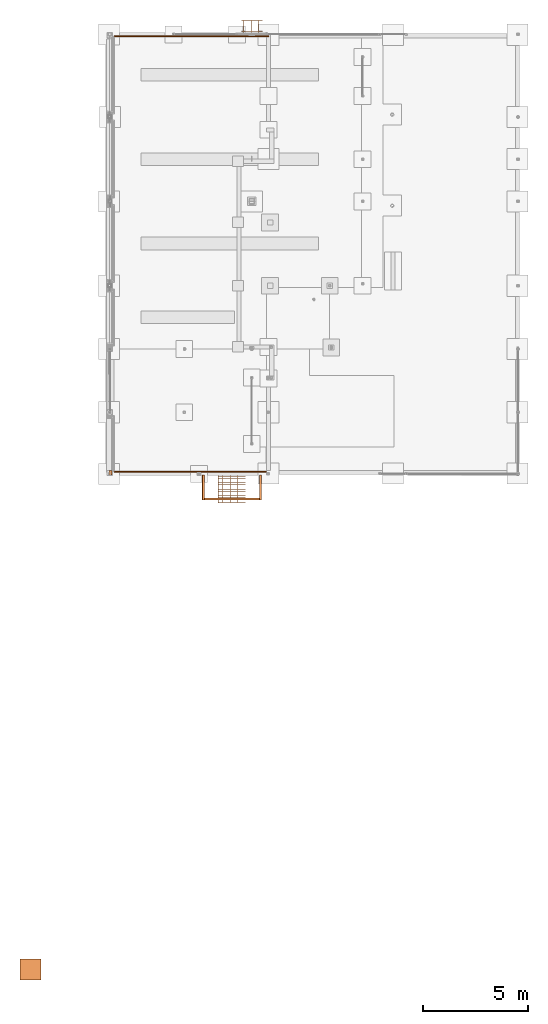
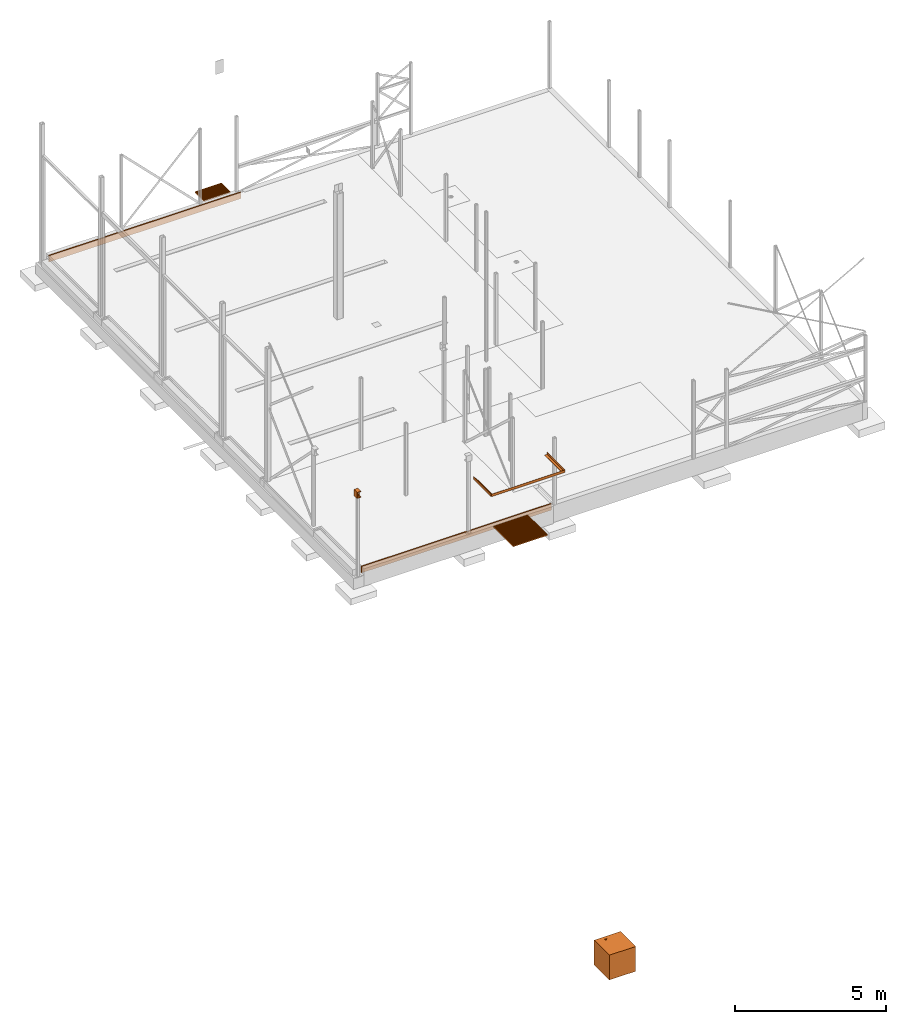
# One storey, part 14 of 18: 9 proxies.
"""IFC2X3 building model written with IfcOpenShell, lengths in millimetres."""

from ifc_helpers import new_model, entity, si_unit, converted_unit, derived_unit, direction, frame, frame_2d, origin, origin_2d_with_axis, place, context, subcontext, project, spatial, polyline, rectangle, circle, outline, extrude, source, transform, mapped, material, material_list, type_object, type_shapes, element, save


model = new_model("IFC2X3")

# Units and contexts
model_context = context("Model", 3, precision=0.01, world=origin(), true_north=direction((6.12303176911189e-17, 1.0)))
body_context = subcontext(model_context, "Body", "Model", "MODEL_VIEW")
ifc_project = project(units=[si_unit("LENGTHUNIT", "METRE", prefix="MILLI"), si_unit("AREAUNIT", "SQUARE_METRE"), si_unit("VOLUMEUNIT", "CUBIC_METRE"), converted_unit("PLANEANGLEUNIT", "DEGREE", entity("IfcRatioMeasure", 0.0174532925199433), si_unit("PLANEANGLEUNIT", "RADIAN"), dimensions=[0, 0, 0, 0, 0, 0, 0]), si_unit("MASSUNIT", "GRAM", prefix="KILO"), derived_unit("MASSDENSITYUNIT", [(si_unit("MASSUNIT", "GRAM", prefix="KILO"), 1), (si_unit("LENGTHUNIT", "METRE"), -3)]), si_unit("TIMEUNIT", "SECOND"), si_unit("FREQUENCYUNIT", "HERTZ"), si_unit("THERMODYNAMICTEMPERATUREUNIT", "DEGREE_CELSIUS"), derived_unit("THERMALTRANSMITTANCEUNIT", [(si_unit("MASSUNIT", "GRAM", prefix="KILO"), 1), (si_unit("THERMODYNAMICTEMPERATUREUNIT", "KELVIN"), -1), (si_unit("TIMEUNIT", "SECOND"), -3)]), derived_unit("VOLUMETRICFLOWRATEUNIT", [(si_unit("LENGTHUNIT", "METRE"), 3), (si_unit("TIMEUNIT", "SECOND"), -1)]), si_unit("ELECTRICCURRENTUNIT", "AMPERE"), si_unit("ELECTRICVOLTAGEUNIT", "VOLT"), si_unit("POWERUNIT", "WATT"), si_unit("FORCEUNIT", "NEWTON", prefix="KILO"), si_unit("ILLUMINANCEUNIT", "LUX"), si_unit("LUMINOUSFLUXUNIT", "LUMEN"), si_unit("LUMINOUSINTENSITYUNIT", "CANDELA"), derived_unit("USERDEFINED", [(si_unit("MASSUNIT", "GRAM", prefix="KILO"), -1), (si_unit("LENGTHUNIT", "METRE"), -2), (si_unit("TIMEUNIT", "SECOND"), 3), (si_unit("LUMINOUSFLUXUNIT", "LUMEN"), 1)]), derived_unit("LINEARVELOCITYUNIT", [(si_unit("LENGTHUNIT", "METRE"), 1), (si_unit("TIMEUNIT", "SECOND"), -1)]), si_unit("PRESSUREUNIT", "PASCAL"), derived_unit("USERDEFINED", [(si_unit("LENGTHUNIT", "METRE"), -2), (si_unit("MASSUNIT", "GRAM", prefix="KILO"), 1), (si_unit("TIMEUNIT", "SECOND"), -2)])], contexts=[model_context])

# Site, building, storey
site_placement = place(None, frame((0.0, 0.0, 101000.0)))
site = spatial("IfcSite", under=ifc_project, at=site_placement, Name="Default", CompositionType="ELEMENT")
building_placement = place(site_placement, origin())
building = spatial("IfcBuilding", under=site, at=building_placement, CompositionType="ELEMENT")
storey_placement = place(building_placement, origin())
storey = spatial("IfcBuildingStorey", under=building, at=storey_placement, Name="01", CompositionType="ELEMENT", Elevation=8.9295595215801e-10)

# Proxies
ifc_material_1 = material(Name="NULPUNKT - RIB")
ifc_material_2 = material(Name="Default")
ifc_material_list = material_list([ifc_material_1, ifc_material_2])
shared_shape_1 = source(origin(), body_context, "Body", "SweptSolid", [
    extrude(rectangle(XDim=1000.0, YDim=1000.0, at=frame_2d((0.0, -4.2632564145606e-13), x_axis=(1.0, 0.0))), frame((0.0, 0.0, -500.0)), (0.0, 0.0, 1.0), 1000.0),
    extrude(outline(polyline([(-23.1072874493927, -22.0657262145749), (-16.9534412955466, -22.0657262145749), (-16.9534412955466, -0.527264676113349), (-9.52555668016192, -0.527264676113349), (-5.95584514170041, -0.743610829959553), (-3.0291624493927, -1.91548582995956), (0.22203947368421, -5.1065915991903), (4.84944331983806, -11.861399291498), (11.2556933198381, -22.0657262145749), (18.4071356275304, -22.0657262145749), (10.1980010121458, -8.72438006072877), (5.21002024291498, -2.39024544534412), (1.71242408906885, 0.241966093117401), (12.0189144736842, 4.82129301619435), (15.3542510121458, 13.6914853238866), (13.3410298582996, 21.1373987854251), (7.95641447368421, 25.8369180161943), (-1.89334514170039, 27.1650430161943), (-23.1072874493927, 27.1650430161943), (-23.1072874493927, -22.0657262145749)]), holes=[polyline([(-16.9534412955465, 5.62658147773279), (-16.9534412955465, 21.0111968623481), (-1.62892206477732, 21.0111968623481), (6.59824139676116, 18.8837930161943), (9.20040485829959, 13.4631199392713), (7.8362221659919, 9.28643724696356), (3.84583755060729, 6.497975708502), (-3.1794028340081, 5.62658147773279), (-16.9534412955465, 5.62658147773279)])]), frame((-172.487598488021, 337.837585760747, 500.0)), (0.0, 0.0, 1.0), 10.0),
    extrude(rectangle(XDim=6.15384615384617, YDim=49.2307692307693, at=frame_2d((-1.68753899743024e-14, 0.0), x_axis=(1.0, 0.0))), frame((-142.51796286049, 340.387244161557, 500.0)), (0.0, 0.0, 1.0), 10.0),
    extrude(outline(polyline([(-25.8791208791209, -23.8620364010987), (-7.23729395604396, -23.8620364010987), (0.653331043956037, -23.014680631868), (6.00789835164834, -20.514680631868), (9.59563873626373, -15.8031421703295), (11.043956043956, -9.18655563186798), (8.92256181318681, -1.53030563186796), (2.85885989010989, 3.06104052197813), (7.85285027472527, 7.41801167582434), (9.50549450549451, 13.1692135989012), (7.54035027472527, 19.4672905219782), (2.10765796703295, 23.9204155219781), (-7.09306318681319, 25.3687328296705), (-25.8791208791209, 25.3687328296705), (-25.8791208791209, -23.8620364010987)]), holes=[polyline([(-19.7252747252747, -17.7081902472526), (-19.7252747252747, -0.785113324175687), (-7.70604395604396, -0.785113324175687), (-0.103880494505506, -1.60843063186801), (3.71222527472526, -4.46299793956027), (4.89010989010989, -9.24665178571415), (3.88650412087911, -13.3932864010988), (1.32640796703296, -16.1276614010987), (-2.53777472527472, -17.467805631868), (-7.10508241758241, -17.7081902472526), (-19.7252747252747, -17.7081902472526)]), polyline([(-19.7252747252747, 5.36873282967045), (-19.7252747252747, 19.2148866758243), (-9.34065934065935, 19.2148866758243), (-1.43200549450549, 18.5718578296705), (2.11366758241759, 16.1980597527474), (3.35164835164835, 12.1836366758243), (2.02352335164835, 8.17522321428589), (-1.92479395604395, 5.89757898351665), (-8.48729395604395, 5.36873282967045), (-19.7252747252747, 5.36873282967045)])]), frame((-101.254226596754, 339.633895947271, 500.0)), (0.0, 0.0, 1.0), 10.0),
])
proxy_1_placement = place(storey_placement, origin())
element("IfcBuildingElementProxy", 1, at=proxy_1_placement, inside=storey, material=ifc_material_list, Name="Procon_Prosjekt nullpunkt RIB:RIB", ObjectType="RIB", context=body_context, shape_type="MappedRepresentation", body=[
    mapped(shared_shape_1, transform((0.0, 0.0, 0.0), scale=1.0)),
])
ifc_material_3 = material(Name="Stål - S355")
building_element_proxy_type_1 = type_object("IfcBuildingElementProxyType", Name="L 100x100x8", PredefinedType="NOTDEFINED", material=ifc_material_3)
shared_shape_2 = source(origin(), body_context, "Body", "SweptSolid", [
    extrude(outline(polyline([(-36.0, -36.0), (64.0, -36.0), (64.0, -28.0), (-28.0, -28.0), (-28.0, 64.0), (-36.0, 64.0), (-36.0, -36.0)])), frame((0.0, 24.0, -24.0), z_axis=(1.0, 0.0, 0.0), x_axis=(0.0, 0.0, -1.0)), (0.0, 0.0, 1.0), 1180.00000000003),
])
type_shapes(building_element_proxy_type_1, [shared_shape_2])
for number, where, z_axis, x_axis, name in (
    (2, (10942.3188765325, 22267.9507529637, 2161.51614697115), (1.0, 0.0, 0.0), (0.0, 1.0, 0.0), "Bjelke L (Linebased):L 100x100x8"),
    (3, (8150.31887653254, 23447.9507529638, 2156.22785734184), (-1.0, 0.0, 0.0), (0.0, -1.0, 0.0), "Bjelke L (Linebased):L 100x100x8"),
):
    element("IfcBuildingElementProxy", number, at=place(storey_placement, frame(where, z_axis=z_axis, x_axis=x_axis)), inside=storey, type_object=building_element_proxy_type_1, material=ifc_material_3, Name=name, ObjectType="L 100x100x8", context=body_context, shape_type="MappedRepresentation", body=[
        mapped(shared_shape_2, transform((0.0, 0.0, 0.0), scale=1.0)),
    ])
building_element_proxy_type_2 = type_object("IfcBuildingElementProxyType", Name="L 100x100x8", PredefinedType="NOTDEFINED", material=ifc_material_3)
shared_shape_3 = source(origin(), body_context, "Body", "SweptSolid", [
    extrude(outline(polyline([(-36.0, -36.0), (64.0, -36.0), (64.0, -28.0), (-28.0, -28.0), (-28.0, 64.0), (-36.0, 64.0), (-36.0, -36.0)])), frame((0.0, 24.0, -24.0), z_axis=(1.0, 0.0, 0.0), x_axis=(0.0, 0.0, -1.0)), (0.0, 0.0, 1.0), 2800.0),
])
type_shapes(building_element_proxy_type_2, [shared_shape_3])
proxy_2_placement = place(storey_placement, frame((8146.31887653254, 22271.9507529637, 2155.25786361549), z_axis=(0.0, -1.0, 0.0), x_axis=(1.0, 0.0, 0.0)))
element("IfcBuildingElementProxy", 4, at=proxy_2_placement, inside=storey, type_object=building_element_proxy_type_2, material=ifc_material_3, Name="Bjelke L (Linebased):L 100x100x8", ObjectType="L 100x100x8", context=body_context, shape_type="MappedRepresentation", body=[
    mapped(shared_shape_3, transform((0.0, 0.0, 0.0), scale=1.0)),
])
ifc_material_4 = material(Name="S355")
building_element_proxy_type_3 = type_object("IfcBuildingElementProxyType", Name="200x150", PredefinedType="NOTDEFINED", material=ifc_material_4)
shared_shape_4 = source(origin(), body_context, "Body", "SweptSolid", [
    extrude(rectangle(XDim=150.0, YDim=200.000000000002, at=frame_2d((21.666666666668, 4.33431068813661e-12), x_axis=(1.0, 0.0))), frame((3764.59783031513, 23547.9507529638, 3130.0)), (0.0, 0.0, 1.0), 19.9999999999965),
    extrude(circle(Radius=10.0000000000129, at=origin_2d_with_axis()), frame((3811.2644969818, 23597.9507529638, 2900.0), z_axis=(0.0, 0.0, 1.0), x_axis=(-1.0, 0.0, 0.0)), (0.0, 0.0, 1.0), 250.000000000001),
    extrude(circle(Radius=10.0000000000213, at=origin_2d_with_axis()), frame((3811.26449698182, 23497.9507529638, 2900.0), z_axis=(0.0, 0.0, 1.0), x_axis=(-1.0, 0.0, 0.0)), (0.0, 0.0, 1.0), 250.000000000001),
    extrude(rectangle(XDim=199.999999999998, YDim=9.99999999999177, at=frame_2d((0.0, -2.70450328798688e-13), x_axis=(1.0, 0.0))), frame((3716.2644969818, 23547.9507529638, 2920.0), z_axis=(0.0, 0.0, 1.0), x_axis=(0.0, -1.0, 0.0)), (0.0, 0.0, 1.0), 209.99999999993),
    extrude(rectangle(XDim=150.0, YDim=200.000000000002, at=frame_2d((2.70006239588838e-13, 0.0), x_axis=(1.0, 0.0))), frame((3786.2644969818, 23547.9507529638, 2900.0)), (0.0, 0.0, 1.0), 20.0000000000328),
])
type_shapes(building_element_proxy_type_3, [shared_shape_4])
proxy_3_placement = place(storey_placement, origin())
element("IfcBuildingElementProxy", 5, at=proxy_3_placement, inside=storey, type_object=building_element_proxy_type_3, material=ifc_material_4, Name="Innstøpningsplate mk.3:200x150", ObjectType="200x150", context=body_context, shape_type="MappedRepresentation", body=[
    mapped(shared_shape_4, transform((0.0, 0.0, 0.0), scale=1.0)),
])
ifc_material_5 = material(Name="Metal - Steel - ASTM A36")
building_element_proxy_type_4 = type_object("IfcBuildingElementProxyType", Name="1300x1300", PredefinedType="NOTDEFINED", material=ifc_material_5)
shared_shape_5 = source(origin(), body_context, "Body", "SweptSolid", [
    extrude(rectangle(XDim=1290.475, YDim=4.7625, at=origin_2d_with_axis()), frame((616.779761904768, 0.0, 0.0), z_axis=(0.0, 0.0, 1.0), x_axis=(0.0, 1.0, 0.0)), (0.0, 0.0, 1.0), 50.0),
    extrude(rectangle(XDim=1290.475, YDim=4.7625, at=origin_2d_with_axis()), frame((585.94077380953, 0.0, 0.0), z_axis=(0.0, 0.0, 1.0), x_axis=(0.0, 1.0, 0.0)), (0.0, 0.0, 1.0), 50.0),
    extrude(rectangle(XDim=1290.475, YDim=4.7625, at=origin_2d_with_axis()), frame((555.101785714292, 0.0, 0.0), z_axis=(0.0, 0.0, 1.0), x_axis=(0.0, 1.0, 0.0)), (0.0, 0.0, 1.0), 50.0),
    extrude(rectangle(XDim=1290.475, YDim=4.7625, at=origin_2d_with_axis()), frame((524.262797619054, 0.0, 0.0), z_axis=(0.0, 0.0, 1.0), x_axis=(0.0, 1.0, 0.0)), (0.0, 0.0, 1.0), 50.0),
    extrude(rectangle(XDim=1290.475, YDim=4.7625, at=origin_2d_with_axis()), frame((493.423809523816, 0.0, 0.0), z_axis=(0.0, 0.0, 1.0), x_axis=(0.0, 1.0, 0.0)), (0.0, 0.0, 1.0), 50.0),
    extrude(rectangle(XDim=1290.475, YDim=4.7625, at=origin_2d_with_axis()), frame((462.584821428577, 0.0, 0.0), z_axis=(0.0, 0.0, 1.0), x_axis=(0.0, 1.0, 0.0)), (0.0, 0.0, 1.0), 50.0),
    extrude(rectangle(XDim=1290.475, YDim=4.7625, at=origin_2d_with_axis()), frame((431.745833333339, 0.0, 0.0), z_axis=(0.0, 0.0, 1.0), x_axis=(0.0, 1.0, 0.0)), (0.0, 0.0, 1.0), 50.0),
    extrude(rectangle(XDim=1290.475, YDim=4.7625, at=origin_2d_with_axis()), frame((400.906845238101, 0.0, 0.0), z_axis=(0.0, 0.0, 1.0), x_axis=(0.0, 1.0, 0.0)), (0.0, 0.0, 1.0), 50.0),
    extrude(rectangle(XDim=1290.475, YDim=4.7625, at=origin_2d_with_axis()), frame((370.067857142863, 0.0, 0.0), z_axis=(0.0, 0.0, 1.0), x_axis=(0.0, 1.0, 0.0)), (0.0, 0.0, 1.0), 50.0),
    extrude(rectangle(XDim=1290.475, YDim=4.7625, at=origin_2d_with_axis()), frame((339.228869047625, 0.0, 0.0), z_axis=(0.0, 0.0, 1.0), x_axis=(0.0, 1.0, 0.0)), (0.0, 0.0, 1.0), 50.0),
    extrude(rectangle(XDim=1290.475, YDim=4.7625, at=origin_2d_with_axis()), frame((308.389880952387, 0.0, 0.0), z_axis=(0.0, 0.0, 1.0), x_axis=(0.0, 1.0, 0.0)), (0.0, 0.0, 1.0), 50.0),
    extrude(rectangle(XDim=1290.475, YDim=4.7625, at=origin_2d_with_axis()), frame((277.550892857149, 0.0, 0.0), z_axis=(0.0, 0.0, 1.0), x_axis=(0.0, 1.0, 0.0)), (0.0, 0.0, 1.0), 50.0),
    extrude(rectangle(XDim=1290.475, YDim=4.7625, at=origin_2d_with_axis()), frame((246.711904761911, 0.0, 0.0), z_axis=(0.0, 0.0, 1.0), x_axis=(0.0, 1.0, 0.0)), (0.0, 0.0, 1.0), 50.0),
    extrude(rectangle(XDim=1290.475, YDim=4.7625, at=origin_2d_with_axis()), frame((215.872916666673, 0.0, 0.0), z_axis=(0.0, 0.0, 1.0), x_axis=(0.0, 1.0, 0.0)), (0.0, 0.0, 1.0), 50.0),
    extrude(rectangle(XDim=1290.475, YDim=4.7625, at=origin_2d_with_axis()), frame((185.033928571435, 0.0, 0.0), z_axis=(0.0, 0.0, 1.0), x_axis=(0.0, 1.0, 0.0)), (0.0, 0.0, 1.0), 50.0),
    extrude(rectangle(XDim=1290.475, YDim=4.7625, at=origin_2d_with_axis()), frame((154.194940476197, 0.0, 0.0), z_axis=(0.0, 0.0, 1.0), x_axis=(0.0, 1.0, 0.0)), (0.0, 0.0, 1.0), 50.0),
    extrude(rectangle(XDim=1290.475, YDim=4.7625, at=origin_2d_with_axis()), frame((123.355952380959, 0.0, 0.0), z_axis=(0.0, 0.0, 1.0), x_axis=(0.0, 1.0, 0.0)), (0.0, 0.0, 1.0), 50.0),
    extrude(rectangle(XDim=1290.475, YDim=4.7625, at=origin_2d_with_axis()), frame((92.5169642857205, 0.0, 0.0), z_axis=(0.0, 0.0, 1.0), x_axis=(0.0, 1.0, 0.0)), (0.0, 0.0, 1.0), 50.0),
    extrude(rectangle(XDim=1290.475, YDim=4.7625, at=origin_2d_with_axis()), frame((61.6779761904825, 0.0, 0.0), z_axis=(0.0, 0.0, 1.0), x_axis=(0.0, 1.0, 0.0)), (0.0, 0.0, 1.0), 50.0),
    extrude(rectangle(XDim=1290.475, YDim=4.7625, at=origin_2d_with_axis()), frame((30.8389880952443, 0.0, 0.0), z_axis=(0.0, 0.0, 1.0), x_axis=(0.0, 1.0, 0.0)), (0.0, 0.0, 1.0), 50.0),
    extrude(rectangle(XDim=1290.475, YDim=4.7625, at=origin_2d_with_axis()), frame((0.0, 0.0, 0.0), z_axis=(0.0, 0.0, 1.0), x_axis=(0.0, 1.0, 0.0)), (0.0, 0.0, 1.0), 50.0),
    extrude(rectangle(XDim=1290.475, YDim=4.7625, at=origin_2d_with_axis()), frame((-30.8389880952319, 0.0, 0.0), z_axis=(0.0, 0.0, 1.0), x_axis=(0.0, 1.0, 0.0)), (0.0, 0.0, 1.0), 50.0),
    extrude(rectangle(XDim=1290.475, YDim=4.7625, at=origin_2d_with_axis()), frame((-61.6779761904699, 0.0, 0.0), z_axis=(0.0, 0.0, 1.0), x_axis=(0.0, 1.0, 0.0)), (0.0, 0.0, 1.0), 50.0),
    extrude(rectangle(XDim=1300.0, YDim=6.34999999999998, at=frame_2d((0.0, 3.37507799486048e-14), x_axis=(1.0, 0.0))), frame((0.0, -457.199999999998, 43.6499999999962), z_axis=(0.0, 0.0, 1.0), x_axis=(-1.0, 0.0, 0.0)), (0.0, 0.0, 1.0), 6.35),
    extrude(rectangle(XDim=1300.0, YDim=6.34999999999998, at=frame_2d((0.0, 3.37507799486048e-14), x_axis=(1.0, 0.0))), frame((0.0, -355.599999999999, 43.6499999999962), z_axis=(0.0, 0.0, 1.0), x_axis=(-1.0, 0.0, 0.0)), (0.0, 0.0, 1.0), 6.35),
    extrude(rectangle(XDim=1300.0, YDim=6.35000000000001, at=origin_2d_with_axis()), frame((0.0, -254.0, 43.6499999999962), z_axis=(0.0, 0.0, 1.0), x_axis=(-1.0, 0.0, 0.0)), (0.0, 0.0, 1.0), 6.35),
    extrude(rectangle(XDim=1300.0, YDim=6.34999999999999, at=frame_2d((0.0, -8.43769498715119e-15), x_axis=(1.0, 0.0))), frame((0.0, -152.399999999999, 43.6499999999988), z_axis=(0.0, 0.0, 1.0), x_axis=(-1.0, 0.0, 0.0)), (0.0, 0.0, 1.0), 6.35),
    extrude(rectangle(XDim=1300.0, YDim=6.34999999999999, at=origin_2d_with_axis()), frame((0.0, -50.7999999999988, 43.6499999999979), z_axis=(0.0, 0.0, 1.0), x_axis=(-1.0, 0.0, 0.0)), (0.0, 0.0, 1.0), 6.35),
    extrude(rectangle(XDim=1300.0, YDim=6.34999999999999, at=origin_2d_with_axis()), frame((0.0, 50.8000000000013, 43.6499999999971), z_axis=(0.0, 0.0, 1.0), x_axis=(-1.0, 0.0, 0.0)), (0.0, 0.0, 1.0), 6.35),
    extrude(rectangle(XDim=1300.0, YDim=6.34999999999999, at=frame_2d((0.0, 8.43769498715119e-15), x_axis=(1.0, 0.0))), frame((0.0, 152.400000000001, 43.6499999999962), z_axis=(0.0, 0.0, 1.0), x_axis=(-1.0, 0.0, 0.0)), (0.0, 0.0, 1.0), 6.35),
    extrude(rectangle(XDim=1290.475, YDim=4.7625, at=origin_2d_with_axis()), frame((-92.5169642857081, 0.0, 0.0), z_axis=(0.0, 0.0, 1.0), x_axis=(0.0, 1.0, 0.0)), (0.0, 0.0, 1.0), 50.0),
    extrude(rectangle(XDim=1290.475, YDim=4.7625, at=origin_2d_with_axis()), frame((-123.355952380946, 0.0, 0.0), z_axis=(0.0, 0.0, 1.0), x_axis=(0.0, 1.0, 0.0)), (0.0, 0.0, 1.0), 50.0),
    extrude(rectangle(XDim=1290.475, YDim=4.7625, at=origin_2d_with_axis()), frame((-154.194940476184, 0.0, 0.0), z_axis=(0.0, 0.0, 1.0), x_axis=(0.0, 1.0, 0.0)), (0.0, 0.0, 1.0), 50.0),
    extrude(rectangle(XDim=1290.475, YDim=4.7625, at=origin_2d_with_axis()), frame((-185.033928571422, 0.0, 0.0), z_axis=(0.0, 0.0, 1.0), x_axis=(0.0, 1.0, 0.0)), (0.0, 0.0, 1.0), 50.0),
    extrude(rectangle(XDim=1290.475, YDim=4.7625, at=origin_2d_with_axis()), frame((-215.87291666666, 0.0, 0.0), z_axis=(0.0, 0.0, 1.0), x_axis=(0.0, 1.0, 0.0)), (0.0, 0.0, 1.0), 50.0),
    extrude(rectangle(XDim=1290.475, YDim=4.7625, at=origin_2d_with_axis()), frame((-246.711904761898, 0.0, 0.0), z_axis=(0.0, 0.0, 1.0), x_axis=(0.0, 1.0, 0.0)), (0.0, 0.0, 1.0), 50.0),
    extrude(rectangle(XDim=1290.475, YDim=4.7625, at=origin_2d_with_axis()), frame((-277.550892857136, 0.0, 0.0), z_axis=(0.0, 0.0, 1.0), x_axis=(0.0, 1.0, 0.0)), (0.0, 0.0, 1.0), 50.0),
    extrude(rectangle(XDim=1290.475, YDim=4.7625, at=origin_2d_with_axis()), frame((-308.389880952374, 0.0, 0.0), z_axis=(0.0, 0.0, 1.0), x_axis=(0.0, 1.0, 0.0)), (0.0, 0.0, 1.0), 50.0),
    extrude(rectangle(XDim=1290.475, YDim=4.7625, at=origin_2d_with_axis()), frame((-339.228869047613, 0.0, 0.0), z_axis=(0.0, 0.0, 1.0), x_axis=(0.0, 1.0, 0.0)), (0.0, 0.0, 1.0), 50.0),
    extrude(rectangle(XDim=1290.475, YDim=4.7625, at=origin_2d_with_axis()), frame((-370.067857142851, 0.0, 0.0), z_axis=(0.0, 0.0, 1.0), x_axis=(0.0, 1.0, 0.0)), (0.0, 0.0, 1.0), 50.0),
    extrude(rectangle(XDim=1290.475, YDim=4.7625, at=origin_2d_with_axis()), frame((-400.906845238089, 0.0, 0.0), z_axis=(0.0, 0.0, 1.0), x_axis=(0.0, 1.0, 0.0)), (0.0, 0.0, 1.0), 50.0),
    extrude(rectangle(XDim=1290.475, YDim=4.7625, at=origin_2d_with_axis()), frame((-431.745833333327, 0.0, 0.0), z_axis=(0.0, 0.0, 1.0), x_axis=(0.0, 1.0, 0.0)), (0.0, 0.0, 1.0), 50.0),
    extrude(rectangle(XDim=1290.475, YDim=4.7625, at=origin_2d_with_axis()), frame((-462.584821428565, 0.0, 0.0), z_axis=(0.0, 0.0, 1.0), x_axis=(0.0, 1.0, 0.0)), (0.0, 0.0, 1.0), 50.0),
    extrude(rectangle(XDim=1290.475, YDim=4.7625, at=origin_2d_with_axis()), frame((-493.423809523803, 0.0, 0.0), z_axis=(0.0, 0.0, 1.0), x_axis=(0.0, 1.0, 0.0)), (0.0, 0.0, 1.0), 50.0),
    extrude(rectangle(XDim=1290.475, YDim=4.7625, at=origin_2d_with_axis()), frame((-524.262797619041, 0.0, 0.0), z_axis=(0.0, 0.0, 1.0), x_axis=(0.0, 1.0, 0.0)), (0.0, 0.0, 1.0), 50.0),
    extrude(rectangle(XDim=1290.475, YDim=4.7625, at=origin_2d_with_axis()), frame((-555.101785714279, 0.0, 0.0), z_axis=(0.0, 0.0, 1.0), x_axis=(0.0, 1.0, 0.0)), (0.0, 0.0, 1.0), 50.0),
    extrude(rectangle(XDim=1290.475, YDim=4.7625, at=origin_2d_with_axis()), frame((-585.940773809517, 0.0, 0.0), z_axis=(0.0, 0.0, 1.0), x_axis=(0.0, 1.0, 0.0)), (0.0, 0.0, 1.0), 50.0),
    extrude(rectangle(XDim=1290.475, YDim=4.7625, at=origin_2d_with_axis()), frame((-616.779761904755, 0.0, 0.0), z_axis=(0.0, 0.0, 1.0), x_axis=(0.0, 1.0, 0.0)), (0.0, 0.0, 1.0), 50.0),
    extrude(rectangle(XDim=1290.475, YDim=4.7625, at=origin_2d_with_axis()), frame((647.618750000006, 0.0, 0.0), z_axis=(0.0, 0.0, 1.0), x_axis=(0.0, 1.0, 0.0)), (0.0, 0.0, 1.0), 50.0),
    extrude(rectangle(XDim=1300.0, YDim=6.35000000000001, at=origin_2d_with_axis()), frame((0.0, 254.0, 43.6499999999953), z_axis=(0.0, 0.0, 1.0), x_axis=(-1.0, 0.0, 0.0)), (0.0, 0.0, 1.0), 6.35),
    extrude(rectangle(XDim=1300.0, YDim=6.34999999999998, at=frame_2d((0.0, 3.37507799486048e-14), x_axis=(1.0, 0.0))), frame((0.0, 355.600000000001, 43.6499999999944), z_axis=(0.0, 0.0, 1.0), x_axis=(-1.0, 0.0, 0.0)), (0.0, 0.0, 1.0), 6.35),
    extrude(rectangle(XDim=1300.0, YDim=6.34999999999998, at=frame_2d((0.0, -3.37507799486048e-14), x_axis=(1.0, 0.0))), frame((0.0, 457.200000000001, 43.6499999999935), z_axis=(0.0, 0.0, 1.0), x_axis=(-1.0, 0.0, 0.0)), (0.0, 0.0, 1.0), 6.35),
    extrude(rectangle(XDim=1300.0, YDim=6.34999999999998, at=frame_2d((0.0, 3.37507799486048e-14), x_axis=(1.0, 0.0))), frame((0.0, -558.799999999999, 43.6500000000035), z_axis=(0.0, 0.0, 1.0), x_axis=(-1.0, 0.0, 0.0)), (0.0, 0.0, 1.0), 6.35),
    extrude(rectangle(XDim=1300.0, YDim=4.7625, at=frame_2d((0.0, -6.75015598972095e-14), x_axis=(1.0, 0.0))), frame((0.0, -647.618750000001, 0.0), z_axis=(0.0, 0.0, 1.0), x_axis=(-1.0, 0.0, 0.0)), (0.0, 0.0, 1.0), 50.0),
    extrude(rectangle(XDim=1300.0, YDim=4.7625, at=frame_2d((0.0, 6.75015598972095e-14), x_axis=(1.0, 0.0))), frame((0.0, 647.618750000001, 0.0), z_axis=(0.0, 0.0, 1.0), x_axis=(-1.0, 0.0, 0.0)), (0.0, 0.0, 1.0), 50.0),
    extrude(rectangle(XDim=1290.475, YDim=4.7625, at=origin_2d_with_axis()), frame((-647.618749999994, 0.0, 0.0), z_axis=(0.0, 0.0, 1.0), x_axis=(0.0, 1.0, 0.0)), (0.0, 0.0, 1.0), 50.0),
    extrude(rectangle(XDim=1300.0, YDim=6.34999999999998, at=frame_2d((0.0, -3.37507799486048e-14), x_axis=(1.0, 0.0))), frame((0.0, 558.800000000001, 43.6499999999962), z_axis=(0.0, 0.0, 1.0), x_axis=(-1.0, 0.0, 0.0)), (0.0, 0.0, 1.0), 6.35),
])
type_shapes(building_element_proxy_type_4, [shared_shape_5])
proxy_4_placement = place(storey_placement, frame((9546.31887653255, 22767.9507529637, -50.0), z_axis=(0.0, 0.0, 1.0), x_axis=(0.0, -1.0, 0.0)))
element("IfcBuildingElementProxy", 6, at=proxy_4_placement, inside=storey, type_object=building_element_proxy_type_4, material=ifc_material_5, Name="Rist:1300x1300", ObjectType="1300x1300", context=body_context, shape_type="MappedRepresentation", body=[
    mapped(shared_shape_5, transform((0.0, 0.0, 0.0), scale=1.0)),
])
building_element_proxy_type_5 = type_object("IfcBuildingElementProxyType", Name="1000x600", PredefinedType="NOTDEFINED", material=ifc_material_5)
shared_shape_6 = source(origin(), body_context, "Body", "SweptSolid", [
    extrude(rectangle(XDim=600.0, YDim=6.34999999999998, at=frame_2d((0.0, 3.39728245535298e-14), x_axis=(1.0, 0.0))), frame((0.0, -304.799999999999, 43.6499999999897), z_axis=(0.0, 0.0, 1.0), x_axis=(-1.0, 0.0, 0.0)), (0.0, 0.0, 1.0), 6.35),
    extrude(rectangle(XDim=600.0, YDim=6.35000000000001, at=frame_2d((0.0, -1.68753899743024e-14), x_axis=(1.0, 0.0))), frame((0.0, -203.199999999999, 43.6499999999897), z_axis=(0.0, 0.0, 1.0), x_axis=(-1.0, 0.0, 0.0)), (0.0, 0.0, 1.0), 6.35),
    extrude(rectangle(XDim=600.0, YDim=6.34999999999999, at=origin_2d_with_axis()), frame((0.0, -101.599999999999, 43.6499999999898), z_axis=(0.0, 0.0, 1.0), x_axis=(-1.0, 0.0, 0.0)), (0.0, 0.0, 1.0), 6.35),
    extrude(rectangle(XDim=600.0, YDim=6.35, at=origin_2d_with_axis()), frame((0.0, 0.0, 43.6499999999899), z_axis=(0.0, 0.0, 1.0), x_axis=(-1.0, 0.0, 0.0)), (0.0, 0.0, 1.0), 6.35),
    extrude(rectangle(XDim=990.475, YDim=4.7625, at=origin_2d_with_axis()), frame((266.290460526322, 0.0, 0.0), z_axis=(0.0, 0.0, 1.0), x_axis=(0.0, 1.0, 0.0)), (0.0, 0.0, 1.0), 50.0),
    extrude(rectangle(XDim=990.475, YDim=4.7625, at=origin_2d_with_axis()), frame((234.962171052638, 0.0, 0.0), z_axis=(0.0, 0.0, 1.0), x_axis=(0.0, 1.0, 0.0)), (0.0, 0.0, 1.0), 50.0),
    extrude(rectangle(XDim=990.475, YDim=4.7625, at=origin_2d_with_axis()), frame((203.633881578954, 0.0, 0.0), z_axis=(0.0, 0.0, 1.0), x_axis=(0.0, 1.0, 0.0)), (0.0, 0.0, 1.0), 50.0),
    extrude(rectangle(XDim=990.475, YDim=4.7625, at=origin_2d_with_axis()), frame((172.305592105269, 0.0, 0.0), z_axis=(0.0, 0.0, 1.0), x_axis=(0.0, 1.0, 0.0)), (0.0, 0.0, 1.0), 50.0),
    extrude(rectangle(XDim=990.475, YDim=4.7625, at=origin_2d_with_axis()), frame((140.977302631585, 0.0, 0.0), z_axis=(0.0, 0.0, 1.0), x_axis=(0.0, 1.0, 0.0)), (0.0, 0.0, 1.0), 50.0),
    extrude(rectangle(XDim=990.475, YDim=4.7625, at=origin_2d_with_axis()), frame((109.649013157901, 0.0, 0.0), z_axis=(0.0, 0.0, 1.0), x_axis=(0.0, 1.0, 0.0)), (0.0, 0.0, 1.0), 50.0),
    extrude(rectangle(XDim=990.475, YDim=4.7625, at=origin_2d_with_axis()), frame((78.3207236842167, 0.0, 0.0), z_axis=(0.0, 0.0, 1.0), x_axis=(0.0, 1.0, 0.0)), (0.0, 0.0, 1.0), 50.0),
    extrude(rectangle(XDim=990.475, YDim=4.7625, at=origin_2d_with_axis()), frame((46.9924342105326, 0.0, 0.0), z_axis=(0.0, 0.0, 1.0), x_axis=(0.0, 1.0, 0.0)), (0.0, 0.0, 1.0), 50.0),
    extrude(rectangle(XDim=990.475, YDim=4.7625, at=origin_2d_with_axis()), frame((15.6641447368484, 0.0, 0.0), z_axis=(0.0, 0.0, 1.0), x_axis=(0.0, 1.0, 0.0)), (0.0, 0.0, 1.0), 50.0),
    extrude(rectangle(XDim=990.475, YDim=4.7625, at=origin_2d_with_axis()), frame((-15.6641447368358, 0.0, 0.0), z_axis=(0.0, 0.0, 1.0), x_axis=(0.0, 1.0, 0.0)), (0.0, 0.0, 1.0), 50.0),
    extrude(rectangle(XDim=990.475, YDim=4.7625, at=origin_2d_with_axis()), frame((-46.99243421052, 0.0, 0.0), z_axis=(0.0, 0.0, 1.0), x_axis=(0.0, 1.0, 0.0)), (0.0, 0.0, 1.0), 50.0),
    extrude(rectangle(XDim=990.475, YDim=4.7625, at=origin_2d_with_axis()), frame((-78.3207236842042, 0.0, 0.0), z_axis=(0.0, 0.0, 1.0), x_axis=(0.0, 1.0, 0.0)), (0.0, 0.0, 1.0), 50.0),
    extrude(rectangle(XDim=990.475, YDim=4.7625, at=origin_2d_with_axis()), frame((-109.649013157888, 0.0, 0.0), z_axis=(0.0, 0.0, 1.0), x_axis=(0.0, 1.0, 0.0)), (0.0, 0.0, 1.0), 50.0),
    extrude(rectangle(XDim=990.475, YDim=4.7625, at=origin_2d_with_axis()), frame((-140.977302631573, 0.0, 0.0), z_axis=(0.0, 0.0, 1.0), x_axis=(0.0, 1.0, 0.0)), (0.0, 0.0, 1.0), 50.0),
    extrude(rectangle(XDim=990.475, YDim=4.7625, at=origin_2d_with_axis()), frame((-172.305592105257, 0.0, 0.0), z_axis=(0.0, 0.0, 1.0), x_axis=(0.0, 1.0, 0.0)), (0.0, 0.0, 1.0), 50.0),
    extrude(rectangle(XDim=990.475, YDim=4.7625, at=origin_2d_with_axis()), frame((-203.633881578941, 0.0, 0.0), z_axis=(0.0, 0.0, 1.0), x_axis=(0.0, 1.0, 0.0)), (0.0, 0.0, 1.0), 50.0),
    extrude(rectangle(XDim=990.475, YDim=4.7625, at=origin_2d_with_axis()), frame((-234.962171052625, 0.0, 0.0), z_axis=(0.0, 0.0, 1.0), x_axis=(0.0, 1.0, 0.0)), (0.0, 0.0, 1.0), 50.0),
    extrude(rectangle(XDim=990.475, YDim=4.7625, at=origin_2d_with_axis()), frame((-266.290460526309, 0.0, 0.0), z_axis=(0.0, 0.0, 1.0), x_axis=(0.0, 1.0, 0.0)), (0.0, 0.0, 1.0), 50.0),
    extrude(rectangle(XDim=990.475, YDim=4.7625, at=origin_2d_with_axis()), frame((297.618750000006, 0.0, 0.0), z_axis=(0.0, 0.0, 1.0), x_axis=(0.0, 1.0, 0.0)), (0.0, 0.0, 1.0), 50.0),
    extrude(rectangle(XDim=600.0, YDim=6.34999999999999, at=frame_2d((0.0, 1.68753899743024e-14), x_axis=(1.0, 0.0))), frame((0.0, 101.600000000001, 43.64999999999), z_axis=(0.0, 0.0, 1.0), x_axis=(-1.0, 0.0, 0.0)), (0.0, 0.0, 1.0), 6.35),
    extrude(rectangle(XDim=600.0, YDim=6.35000000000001, at=frame_2d((0.0, -1.68753899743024e-14), x_axis=(1.0, 0.0))), frame((0.0, 203.200000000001, 43.6499999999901), z_axis=(0.0, 0.0, 1.0), x_axis=(-1.0, 0.0, 0.0)), (0.0, 0.0, 1.0), 6.35),
    extrude(rectangle(XDim=600.0, YDim=6.35000000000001, at=frame_2d((0.0, -1.68753899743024e-14), x_axis=(1.0, 0.0))), frame((0.0, 304.800000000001, 43.6499999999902), z_axis=(0.0, 0.0, 1.0), x_axis=(-1.0, 0.0, 0.0)), (0.0, 0.0, 1.0), 6.35),
    extrude(rectangle(XDim=600.0, YDim=6.34999999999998, at=origin_2d_with_axis()), frame((0.0, -406.399999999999, 43.6499999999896), z_axis=(0.0, 0.0, 1.0), x_axis=(-1.0, 0.0, 0.0)), (0.0, 0.0, 1.0), 6.35),
    extrude(rectangle(XDim=600.0, YDim=4.7625, at=origin_2d_with_axis()), frame((0.0, -497.61875, 0.0), z_axis=(0.0, 0.0, 1.0), x_axis=(-1.0, 0.0, 0.0)), (0.0, 0.0, 1.0), 50.0),
    extrude(rectangle(XDim=600.0, YDim=4.7625, at=origin_2d_with_axis()), frame((0.0, 497.618750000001, 0.0), z_axis=(0.0, 0.0, 1.0), x_axis=(-1.0, 0.0, 0.0)), (0.0, 0.0, 1.0), 50.0),
    extrude(rectangle(XDim=990.475, YDim=4.7625, at=origin_2d_with_axis()), frame((-297.618749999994, 0.0, 0.0), z_axis=(0.0, 0.0, 1.0), x_axis=(0.0, 1.0, 0.0)), (0.0, 0.0, 1.0), 50.0),
    extrude(rectangle(XDim=600.0, YDim=6.34999999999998, at=origin_2d_with_axis()), frame((0.0, 406.4, 43.6499999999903), z_axis=(0.0, 0.0, 1.0), x_axis=(-1.0, 0.0, 0.0)), (0.0, 0.0, 1.0), 6.35),
])
type_shapes(building_element_proxy_type_5, [shared_shape_6])
proxy_5_placement = place(storey_placement, frame((10491.0269969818, 44717.9507529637, -50.0), z_axis=(0.0, 0.0, 1.0), x_axis=(0.0, 1.0, 0.0)))
element("IfcBuildingElementProxy", 7, at=proxy_5_placement, inside=storey, type_object=building_element_proxy_type_5, material=ifc_material_5, Name="Rist:1000x600", ObjectType="1000x600", context=body_context, shape_type="MappedRepresentation", body=[
    mapped(shared_shape_6, transform((0.0, 0.0, 0.0), scale=1.0)),
])
proxy_6_placement = place(storey_placement, origin())
element("IfcBuildingElementProxy", 8, at=proxy_6_placement, inside=storey, context=body_context, shape_type="SweptSolid", body=[
    extrude(rectangle(XDim=7324.99999999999, YDim=49.9999999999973, at=frame_2d((-1187.5, 4.2419401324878e-12), x_axis=(1.0, 0.0))), frame((8811.26449698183, 44242.9507529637, -250.0)), (0.0, 0.0, 1.0), 250.0),
])
proxy_7_placement = place(storey_placement, origin())
element("IfcBuildingElementProxy", 9, at=proxy_7_placement, inside=storey, context=body_context, shape_type="SweptSolid", body=[
    extrude(rectangle(XDim=7224.99999999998, YDim=50.0000000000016, at=frame_2d((4.54747350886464e-13, -2.16715534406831e-12), x_axis=(1.0, 0.0))), frame((7573.7644969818, 23592.9507529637, -250.0), z_axis=(0.0, 0.0, 1.0), x_axis=(-1.0, 0.0, 0.0)), (0.0, 0.0, 1.0), 250.0),
])

save(model, "model.ifc")
